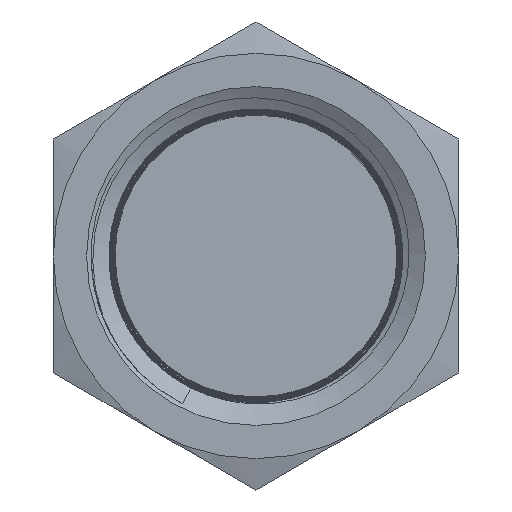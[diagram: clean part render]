
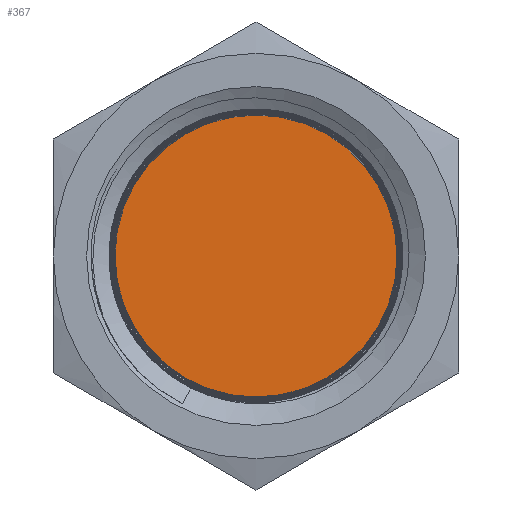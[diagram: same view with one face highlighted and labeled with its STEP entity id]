
A CAD part, left-side view. The second image highlights one B-rep face of the part: STEP entity #367.
In plain terms, the highlighted planar face has unit normal (-1, 0, 0).
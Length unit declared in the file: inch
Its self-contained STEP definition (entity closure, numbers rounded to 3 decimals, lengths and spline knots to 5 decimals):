
#367 = ADVANCED_FACE( '', ( #886 ), #887, .T. );
#886 = FACE_OUTER_BOUND( '', #2719, .T. );
#887 = PLANE( '', #2720 );
#2719 = EDGE_LOOP( '', ( #7062 ) );
#2720 = AXIS2_PLACEMENT_3D( '', #7063, #7064, #7065 );
#7062 = ORIENTED_EDGE( '', *, *, #9009, .T. );
#7063 = CARTESIAN_POINT( '', ( 0.625, 0., 0. ) );
#7064 = DIRECTION( '', ( -1., 0., 0. ) );
#7065 = DIRECTION( '', ( 0., 0., 1. ) );
#9009 = EDGE_CURVE( '', #9998, #9998, #9999, .T. );
#9998 = VERTEX_POINT( '', #12467 );
#9999 = CIRCLE( '', #12468, 0.4348 );
#12467 = CARTESIAN_POINT( '', ( 0.625, 0.4348, -0.00048 ) );
#12468 = AXIS2_PLACEMENT_3D( '', #15410, #15411, #15412 );
#15410 = CARTESIAN_POINT( '', ( 0.625, 0., 0. ) );
#15411 = DIRECTION( '', ( -1., 0., 0. ) );
#15412 = DIRECTION( '', ( 0., 0., 1. ) );
